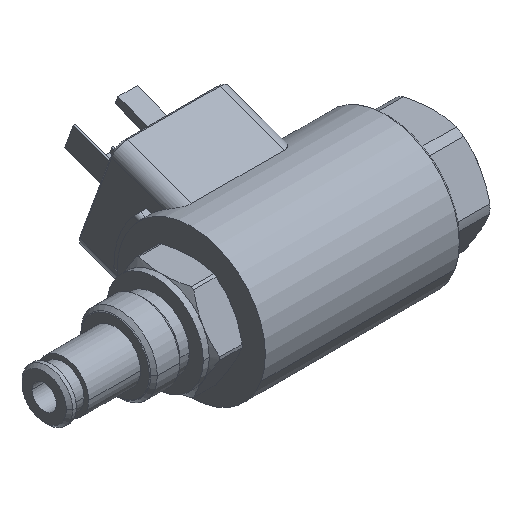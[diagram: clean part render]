
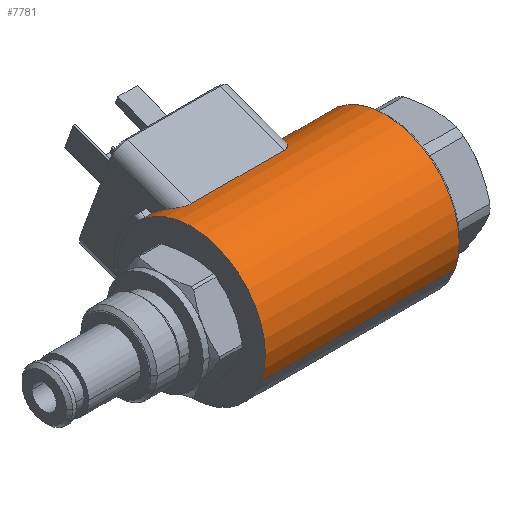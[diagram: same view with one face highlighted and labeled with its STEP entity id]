
A CAD part, isometric view. The second image highlights one B-rep face of the part: STEP entity #7781.
In plain terms, the highlighted cylindrical face has radius 18.5 mm (diameter 37 mm), a partial arc.
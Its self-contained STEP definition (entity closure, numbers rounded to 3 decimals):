
#5150=CARTESIAN_POINT('',(0.,0.,0.));
#5151=DIRECTION('',(1.,0.,0.));
#5152=DIRECTION('',(0.,1.,0.));
#5153=AXIS2_PLACEMENT_3D('',#5150,#5151,#5152);
#5189=DIRECTION('',(-1.,0.,0.));
#5190=VECTOR('',#5189,0.5);
#5191=CARTESIAN_POINT('',(0.5,18.5,0.));
#5192=LINE('',#5191,#5190);
#5196=DIRECTION('',(-1.,0.,0.));
#5197=VECTOR('',#5196,48.368);
#5198=CARTESIAN_POINT('',(48.368,-18.5,0.));
#5199=LINE('',#5198,#5197);
#5211=DIRECTION('',(-1.,0.,0.));
#5212=VECTOR('',#5211,16.368);
#5213=CARTESIAN_POINT('',(48.368,18.5,0.));
#5214=LINE('',#5213,#5212);
#5380=CARTESIAN_POINT('',(1.5,16.608,8.15));
#5381=CARTESIAN_POINT('',(1.468,16.608,8.15));
#5382=CARTESIAN_POINT('',(1.402,16.61,8.147));
#5383=CARTESIAN_POINT('',(1.304,16.617,8.132));
#5384=CARTESIAN_POINT('',(1.206,16.629,8.108));
#5385=CARTESIAN_POINT('',(1.112,16.645,8.074));
#5386=CARTESIAN_POINT('',(1.021,16.666,8.03));
#5387=CARTESIAN_POINT('',(0.933,16.692,7.976));
#5388=CARTESIAN_POINT('',(0.851,16.722,7.913));
#5389=CARTESIAN_POINT('',(0.775,16.756,7.841));
#5390=CARTESIAN_POINT('',(0.705,16.794,7.76));
#5391=CARTESIAN_POINT('',(0.644,16.835,7.671));
#5392=CARTESIAN_POINT('',(0.593,16.878,7.575));
#5393=CARTESIAN_POINT('',(0.552,16.923,7.475));
#5394=CARTESIAN_POINT('',(0.522,16.969,7.369));
#5395=CARTESIAN_POINT('',(0.504,17.016,7.26));
#5396=CARTESIAN_POINT('',(0.5,17.047,7.187));
#5397=CARTESIAN_POINT('',(0.5,17.062,7.15));
#6085=CARTESIAN_POINT('',(0.5,0.,0.));
#6086=DIRECTION('',(1.,0.,0.));
#6087=DIRECTION('',(0.,1.,0.));
#6088=AXIS2_PLACEMENT_3D('',#6085,#6086,#6087);
#6093=DIRECTION('',(1.,0.,0.));
#6094=VECTOR('',#6093,1.5);
#6095=CARTESIAN_POINT('',(1.5,16.608,8.15));
#6096=LINE('',#6095,#6094);
#6100=CARTESIAN_POINT('',(3.,0.,0.));
#6101=DIRECTION('',(1.,0.,0.));
#6102=DIRECTION('',(0.,0.898,0.441));
#6103=AXIS2_PLACEMENT_3D('',#6100,#6101,#6102);
#6108=CARTESIAN_POINT('',(3.,14.491,11.5));
#6109=CARTESIAN_POINT('',(3.,14.417,11.594));
#6110=CARTESIAN_POINT('',(3.009,14.263,11.784));
#6111=CARTESIAN_POINT('',(3.051,14.016,12.077));
#6112=CARTESIAN_POINT('',(3.122,13.762,12.366));
#6113=CARTESIAN_POINT('',(3.223,13.504,12.647));
#6114=CARTESIAN_POINT('',(3.35,13.247,12.916));
#6115=CARTESIAN_POINT('',(3.5,12.997,13.167));
#6116=CARTESIAN_POINT('',(3.669,12.761,13.396));
#6117=CARTESIAN_POINT('',(3.854,12.54,13.602));
#6118=CARTESIAN_POINT('',(4.05,12.339,13.785));
#6119=CARTESIAN_POINT('',(4.252,12.16,13.943));
#6120=CARTESIAN_POINT('',(4.458,12.004,14.077));
#6121=CARTESIAN_POINT('',(4.662,11.872,14.188));
#6122=CARTESIAN_POINT('',(4.863,11.763,14.279));
#6123=CARTESIAN_POINT('',(5.06,11.674,14.352));
#6124=CARTESIAN_POINT('',(5.254,11.604,14.408));
#6125=CARTESIAN_POINT('',(5.444,11.552,14.45));
#6126=CARTESIAN_POINT('',(5.63,11.515,14.479));
#6127=CARTESIAN_POINT('',(5.816,11.494,14.496));
#6128=CARTESIAN_POINT('',(5.939,11.489,14.5));
#6129=CARTESIAN_POINT('',(6.,11.489,14.5));
#6134=DIRECTION('',(1.,0.,0.));
#6135=VECTOR('',#6134,23.);
#6136=CARTESIAN_POINT('',(6.,11.489,14.5));
#6137=LINE('',#6136,#6135);
#6141=CARTESIAN_POINT('',(29.,11.489,14.5));
#6142=CARTESIAN_POINT('',(29.061,11.489,14.5));
#6143=CARTESIAN_POINT('',(29.184,11.494,14.496));
#6144=CARTESIAN_POINT('',(29.37,11.515,14.479));
#6145=CARTESIAN_POINT('',(29.556,11.552,14.45));
#6146=CARTESIAN_POINT('',(29.746,11.604,14.408));
#6147=CARTESIAN_POINT('',(29.94,11.674,14.352));
#6148=CARTESIAN_POINT('',(30.137,11.763,14.279));
#6149=CARTESIAN_POINT('',(30.338,11.872,14.188));
#6150=CARTESIAN_POINT('',(30.542,12.004,14.077));
#6151=CARTESIAN_POINT('',(30.748,12.16,13.943));
#6152=CARTESIAN_POINT('',(30.95,12.339,13.785));
#6153=CARTESIAN_POINT('',(31.146,12.54,13.602));
#6154=CARTESIAN_POINT('',(31.331,12.761,13.395));
#6155=CARTESIAN_POINT('',(31.5,12.997,13.167));
#6156=CARTESIAN_POINT('',(31.65,13.247,12.916));
#6157=CARTESIAN_POINT('',(31.777,13.504,12.647));
#6158=CARTESIAN_POINT('',(31.878,13.762,12.366));
#6159=CARTESIAN_POINT('',(31.949,14.016,12.077));
#6160=CARTESIAN_POINT('',(31.991,14.263,11.784));
#6161=CARTESIAN_POINT('',(32.,14.417,11.594));
#6162=CARTESIAN_POINT('',(32.,14.491,11.5));
#6167=CARTESIAN_POINT('',(32.,0.,0.));
#6168=DIRECTION('',(1.,0.,0.));
#6169=DIRECTION('',(0.,1.,0.));
#6170=AXIS2_PLACEMENT_3D('',#6167,#6168,#6169);
#6175=CARTESIAN_POINT('',(48.368,0.,0.));
#6176=DIRECTION('',(1.,0.,0.));
#6177=DIRECTION('',(0.,1.,0.));
#6178=AXIS2_PLACEMENT_3D('',#6175,#6176,#6177);
#6417=CARTESIAN_POINT('',(48.368,-18.5,0.));
#6418=CARTESIAN_POINT('',(0.,-18.5,0.));
#6419=VERTEX_POINT('',#6417);
#6420=VERTEX_POINT('',#6418);
#6421=CARTESIAN_POINT('',(6.,11.489,14.5));
#6422=CARTESIAN_POINT('',(29.,11.489,14.5));
#6423=VERTEX_POINT('',#6421);
#6424=VERTEX_POINT('',#6422);
#6425=VERTEX_POINT('',#6162);
#6426=CARTESIAN_POINT('',(32.,18.5,0.));
#6427=VERTEX_POINT('',#6426);
#6428=VERTEX_POINT('',#6108);
#6435=CARTESIAN_POINT('',(48.368,18.5,0.));
#6436=VERTEX_POINT('',#6435);
#6517=CARTESIAN_POINT('',(0.,18.5,0.));
#6518=VERTEX_POINT('',#6517);
#6571=CARTESIAN_POINT('',(3.,16.608,8.15));
#6572=VERTEX_POINT('',#6571);
#6575=CARTESIAN_POINT('',(1.5,16.608,8.15));
#6576=VERTEX_POINT('',#6575);
#6577=CARTESIAN_POINT('',(0.5,17.062,7.15));
#6578=VERTEX_POINT('',#6577);
#6586=CARTESIAN_POINT('',(0.5,18.5,0.));
#6587=VERTEX_POINT('',#6586);
#7756=CARTESIAN_POINT('',(-2.47,0.,0.));
#7757=DIRECTION('',(1.,0.,0.));
#7758=DIRECTION('',(0.,-1.,0.));
#7759=AXIS2_PLACEMENT_3D('',#7756,#7757,#7758);
#7760=CYLINDRICAL_SURFACE('',#7759,18.5);
#7762=ORIENTED_EDGE('',*,*,#7761,.T.);
#7763=ORIENTED_EDGE('',*,*,#6768,.F.);
#7764=ORIENTED_EDGE('',*,*,#6796,.T.);
#7765=ORIENTED_EDGE('',*,*,#6822,.T.);
#7767=ORIENTED_EDGE('',*,*,#7766,.T.);
#7769=ORIENTED_EDGE('',*,*,#7768,.T.);
#7771=ORIENTED_EDGE('',*,*,#7770,.T.);
#7772=ORIENTED_EDGE('',*,*,#7737,.F.);
#7773=ORIENTED_EDGE('',*,*,#6655,.F.);
#7775=ORIENTED_EDGE('',*,*,#7774,.T.);
#7776=ORIENTED_EDGE('',*,*,#6651,.T.);
#7777=ORIENTED_EDGE('',*,*,#6619,.F.);
#7778=ORIENTED_EDGE('',*,*,#6648,.F.);
#7779=EDGE_LOOP('',(#7762,#7763,#7764,#7765,#7767,#7769,#7771,#7772,#7773,#7775,
#7776,#7777,#7778));
#7780=FACE_OUTER_BOUND('',#7779,.F.);
#5154=CIRCLE('',#5153,18.5);
#5398=B_SPLINE_CURVE_WITH_KNOTS('',3,(#5380,#5381,#5382,#5383,#5384,#5385,#5386,
#5387,#5388,#5389,#5390,#5391,#5392,#5393,#5394,#5395,#5396,#5397),
.UNSPECIFIED.,.F.,.F.,(4,1,1,1,1,1,1,1,1,1,1,1,1,1,1,4),(0.,0.067,
0.133,0.2,0.267,0.333,0.4,
0.467,0.533,0.6,0.667,0.733,
0.8,0.867,0.933,1.),.UNSPECIFIED.);
#6089=CIRCLE('',#6088,18.5);
#6104=CIRCLE('',#6103,18.5);
#6130=B_SPLINE_CURVE_WITH_KNOTS('',3,(#6108,#6109,#6110,#6111,#6112,#6113,#6114,
#6115,#6116,#6117,#6118,#6119,#6120,#6121,#6122,#6123,#6124,#6125,#6126,#6127,
#6128,#6129),.UNSPECIFIED.,.F.,.F.,(4,1,1,1,1,1,1,1,1,1,1,1,1,1,1,1,1,1,1,4),(
0.,0.053,0.105,0.158,0.211,
0.263,0.316,0.368,0.421,
0.474,0.526,0.579,0.632,
0.684,0.737,0.789,0.842,
0.895,0.947,1.),.UNSPECIFIED.);
#6163=B_SPLINE_CURVE_WITH_KNOTS('',3,(#6141,#6142,#6143,#6144,#6145,#6146,#6147,
#6148,#6149,#6150,#6151,#6152,#6153,#6154,#6155,#6156,#6157,#6158,#6159,#6160,
#6161,#6162),.UNSPECIFIED.,.F.,.F.,(4,1,1,1,1,1,1,1,1,1,1,1,1,1,1,1,1,1,1,4),(
0.,0.053,0.105,0.158,0.211,
0.263,0.316,0.368,0.421,
0.474,0.526,0.579,0.632,
0.684,0.737,0.789,0.842,
0.895,0.947,1.),.UNSPECIFIED.);
#6171=CIRCLE('',#6170,18.5);
#6179=CIRCLE('',#6178,18.5);
#6619=EDGE_CURVE('',#6518,#6420,#5154,.T.);
#6648=EDGE_CURVE('',#6587,#6518,#5192,.T.);
#6651=EDGE_CURVE('',#6419,#6420,#5199,.T.);
#6655=EDGE_CURVE('',#6436,#6427,#5214,.T.);
#6768=EDGE_CURVE('',#6576,#6578,#5398,.T.);
#6796=EDGE_CURVE('',#6576,#6572,#6096,.T.);
#6822=EDGE_CURVE('',#6572,#6428,#6104,.T.);
#7737=EDGE_CURVE('',#6427,#6425,#6171,.T.);
#7761=EDGE_CURVE('',#6587,#6578,#6089,.T.);
#7766=EDGE_CURVE('',#6428,#6423,#6130,.T.);
#7768=EDGE_CURVE('',#6423,#6424,#6137,.T.);
#7770=EDGE_CURVE('',#6424,#6425,#6163,.T.);
#7774=EDGE_CURVE('',#6436,#6419,#6179,.T.);
#7781=ADVANCED_FACE('',(#7780),#7760,.T.);
